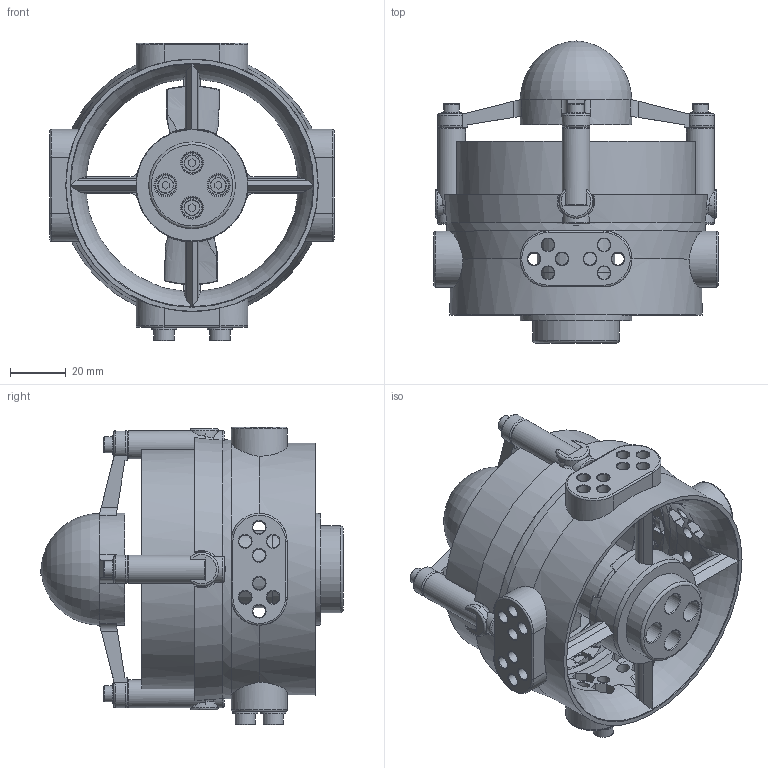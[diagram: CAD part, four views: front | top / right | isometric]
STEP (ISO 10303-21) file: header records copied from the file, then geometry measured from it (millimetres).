
FILE_DESCRIPTION(/* description */ ('STEP AP214','CAx-IF Rec.Pracs.---User Defined Attributes---1.5---2016-08-15'),/* implementation_level */ '2;1');
FILE_NAME(/* name */ '6adecddc9e35fc4dd8914dd2',/* time_stamp */ '2026-10-26T03:49:50Z',/* author */ (''),/* organization */ (''),/* preprocessor_version */ 'ST-DEVELOPER v20',/* originating_system */ 'ONSHAPE BY PTC INC, 1.222',/* authorisation */ ' ');
FILE_SCHEMA (('AUTOMOTIVE_DESIGN {1 0 10303 214 3 1 1}'));
Length unit declared in the file: metre
Products named in the file (49): R11 thruster - actual Motor models; M3 front washer cover 3; M4 flat washer 9x4.3x0.8 - 3; M3 captured cover nut 2; M3 captured cover nut 1; M3 flat washer motor base 3; M3 second motor-base washer 1 (R11); M3x8 motor-base screw 1; M3 front washer cover 1; M4x12 socket mounting bolt 2; M3x40 cover-extension through-bolt 2; M3 rear washer cover 2; M3x40 cover-extension through-bolt 3; M3 front washer cover 4; M3x8 motor-base screw 2; M3 rear washer cover 1; M4 hex nut AF7x3.2 - 1; M4 flat washer 9x4.3x0.8 - 1; M4 hex nut AF7x3.2 - 3; M4 flat washer 9x4.3x0.8 - 2; M4 flat washer 9x4.3x0.8 - 4; M3 second motor-base washer 2 (R11); M3 second motor-base washer 4 (R11); M3 flat washer motor base 1; M3 front washer cover 2; ACTUAL motor bullet nut - Motor source; M4 hex nut AF7x3.2 - 2; R10 duct extension - 28 mm, four M3x40 through-bolts; M3 flat washer motor base 2; M3x40 cover-extension through-bolt 4; M4x12 socket mounting bolt 3; R11 fan - actual adapter, 5.1 bore, 7.145 hub; M4x12 socket mounting bolt 1; Front cover - four M3 through-bolt tabs (R4); M4x12 socket mounting bolt 4; M3 rear washer cover 3; R6.1 nozzle - flatter rear motor boss; ACTUAL motor prop collar - Motor source; M3 captured cover nut 3; M3 rear washer cover 4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
Assembly tree (48 placements, depth 2):
  R11 thruster - actual Motor models
    M3 front washer cover 3
    M4 flat washer 9x4.3x0.8 - 3
    M3 captured cover nut 2
    M3 captured cover nut 1
    M3 flat washer motor base 3
    M3 second motor-base washer 1 (R11)
    M3x8 motor-base screw 1
    M3 front washer cover 1
    M4x12 socket mounting bolt 2
    M3x40 cover-extension through-bolt 2
    M3 rear washer cover 2
    M3x40 cover-extension through-bolt 3
    M3 front washer cover 4
    M3x8 motor-base screw 2
    M3 rear washer cover 1
    M4 hex nut AF7x3.2 - 1
    M4 flat washer 9x4.3x0.8 - 1
    M4 hex nut AF7x3.2 - 3
    M4 flat washer 9x4.3x0.8 - 2
    M4 flat washer 9x4.3x0.8 - 4
    M3 second motor-base washer 2 (R11)
    M3 second motor-base washer 4 (R11)
    M3 flat washer motor base 1
    M3 front washer cover 2
    ACTUAL motor bullet nut - Motor source
    M4 hex nut AF7x3.2 - 2
    R10 duct extension - 28 mm, four M3x40 through-bolts
    M3 flat washer motor base 2
    M3x40 cover-extension through-bolt 4
    M4x12 socket mounting bolt 3
    R11 fan - actual adapter, 5.1 bore, 7.145 hub
    M4x12 socket mounting bolt 1
    Front cover - four M3 through-bolt tabs (R4)
    M4x12 socket mounting bolt 4
    M3 rear washer cover 3
    R6.1 nozzle - flatter rear motor boss
    ACTUAL motor prop collar - Motor source
    M3 captured cover nut 3
    M3 rear washer cover 4
    M3 second motor-base washer 3 (R11)
    ACTUAL A2212 motor - original fused CAD reference
    M3x40 cover-extension through-bolt 1
    M3x8 motor-base screw 4
    M3 flat washer motor base 4
    M3 captured cover nut 4
    ACTUAL motor collet thread - Motor source
    M3x8 motor-base screw 3
    M4 hex nut AF7x3.2 - 4
Bounding box: 101.59 x 108.01 x 106.39 mm (x, y, z)
Volume: 185501.8 mm3; surface area: 87889.2 mm2
Topology: 48 solids, 48 shells, 1346 faces, 3452 edges, 2229 vertices
Faces by surface type: plane 578, cylinder 435, torus 164, bspline 123, cone 45, sphere 1
Full cylindrical faces by diameter (mm): 2.032 x1, 2.261 x4, 3 x12, 3.111 x2, 3.2 x16, 3.3 x4, 3.302 x1, 3.4 x16, 3.5 x1, 4 x9, 4.064 x1, 4.3 x4, 4.5 x32, 4.826 x9, 5.1 x1, 5.68 x8, 5.791 x1, 6.2 x1, 6.985 x4, 7 x16, 7.22 x4, 7.6 x4, 7.62 x1, 8.89 x1, 9 x4, 9.6 x1, 10 x4, 10.008 x1, 10.033 x1, 11.836 x1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
Entity records: 53548 total; most frequent: CARTESIAN_POINT 22542, ORIENTED_EDGE 6150, DIRECTION 5645, EDGE_CURVE 3075, AXIS2_PLACEMENT_3D 2276, VERTEX_POINT 2139, FACE_BOUND 1828, EDGE_LOOP 1827
